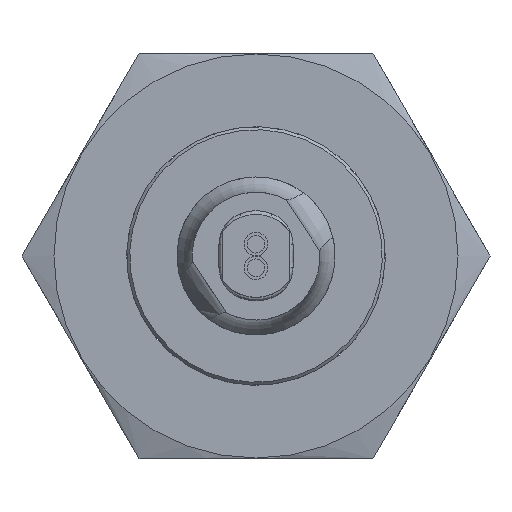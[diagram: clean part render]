
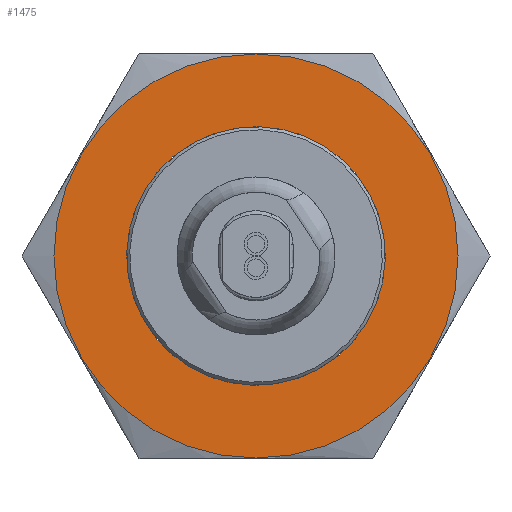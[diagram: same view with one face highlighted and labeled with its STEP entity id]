
A CAD part, front view. The second image highlights one B-rep face of the part: STEP entity #1475.
In plain terms, the highlighted planar face has unit normal (0, -1, 0).
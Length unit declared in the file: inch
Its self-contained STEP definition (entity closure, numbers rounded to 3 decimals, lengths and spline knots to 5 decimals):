
#81=FACE_BOUND('',#336,.T.);
#231=FACE_OUTER_BOUND('',#335,.T.);
#335=EDGE_LOOP('',(#1239));
#336=EDGE_LOOP('',(#1240));
#411=CIRCLE('',#1820,0.34194);
#413=CIRCLE('',#1827,0.21875);
#672=VERTEX_POINT('',#2973);
#683=VERTEX_POINT('',#3027);
#849=EDGE_CURVE('',#672,#672,#411,.T.);
#866=EDGE_CURVE('',#683,#683,#413,.T.);
#1239=ORIENTED_EDGE('',*,*,#849,.T.);
#1240=ORIENTED_EDGE('',*,*,#866,.T.);
#1290=PLANE('',#1832);
#1475=ADVANCED_FACE('',(#231,#81),#1290,.T.);
#1820=AXIS2_PLACEMENT_3D('',#2975,#2221,#2222);
#1827=AXIS2_PLACEMENT_3D('',#3028,#2240,#2241);
#1832=AXIS2_PLACEMENT_3D('',#3037,#2253,#2254);
#2221=DIRECTION('center_axis',(0.,-1.,0.));
#2222=DIRECTION('ref_axis',(-1.,0.,0.));
#2240=DIRECTION('center_axis',(0.,1.,0.));
#2241=DIRECTION('ref_axis',(1.,0.,0.));
#2253=DIRECTION('center_axis',(0.,-1.,0.));
#2254=DIRECTION('ref_axis',(0.,0.,-1.));
#2973=CARTESIAN_POINT('',(0.34194,0.,0.));
#2975=CARTESIAN_POINT('Origin',(0.,0.,0.));
#3027=CARTESIAN_POINT('',(-0.21875,0.,0.));
#3028=CARTESIAN_POINT('Origin',(0.,0.,0.));
#3037=CARTESIAN_POINT('Origin',(0.,0.,0.));
